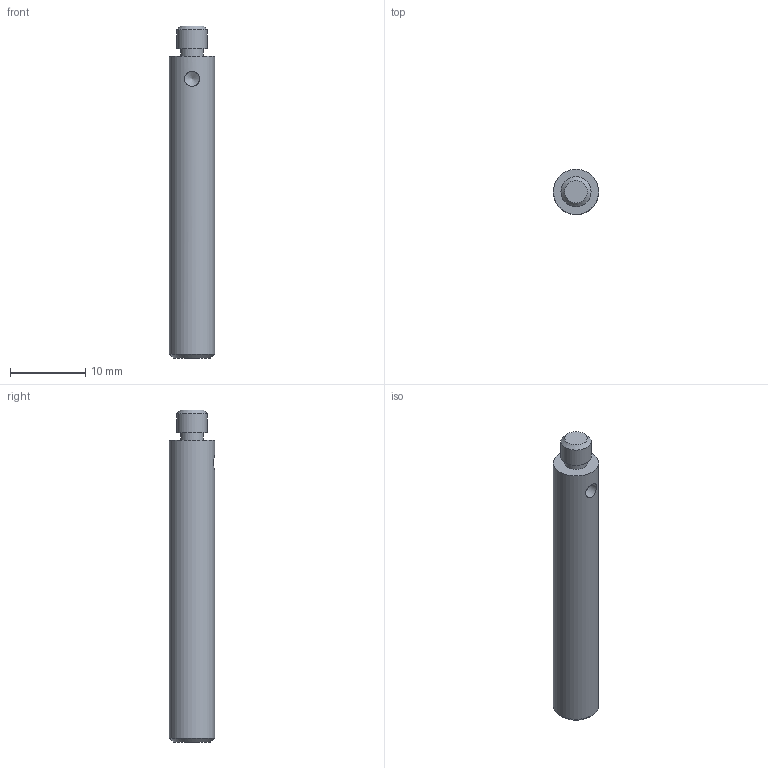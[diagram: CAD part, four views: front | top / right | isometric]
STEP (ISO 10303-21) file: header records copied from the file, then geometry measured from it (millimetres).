
FILE_DESCRIPTION((''),'2;1');
FILE_NAME('S:\1規格品図面ﾃﾞｰﾀ\OpticalHard\01_国内製品\3_Bases\RO\RO-6\RO-6-40\RO-6-40.stp','2007-10-23T11:32:42',('okegawa'),(''),'Autodesk Inventor 11','Autodesk Inventor 11','');
FILE_SCHEMA(('AUTOMOTIVE_DESIGN { 1 0 10303 214 1 1 1 1 }'));
Length unit declared in the file: millimetre
Products named in the file (1): RO-6-40-01-S01
Bounding box: 6 x 6 x 44 mm (x, y, z)
Volume: 1159 mm3; surface area: 883.9 mm2
Topology: 1 solids, 1 shells, 11 faces, 20 edges, 13 vertices
Faces by surface type: cylinder 4, plane 4, cone 3
Full cylindrical faces by diameter (mm): 2 x1, 3 x1, 4 x1, 6 x1
Entity records: 295 total; most frequent: CARTESIAN_POINT 88, DIRECTION 42, ORIENTED_EDGE 22, AXIS2_PLACEMENT_3D 21, EDGE_LOOP 20, VERTEX_POINT 11, EDGE_CURVE 11, FACE_OUTER_BOUND 11
